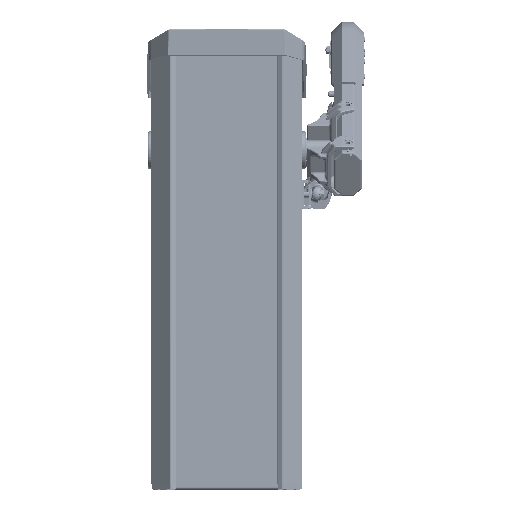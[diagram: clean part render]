
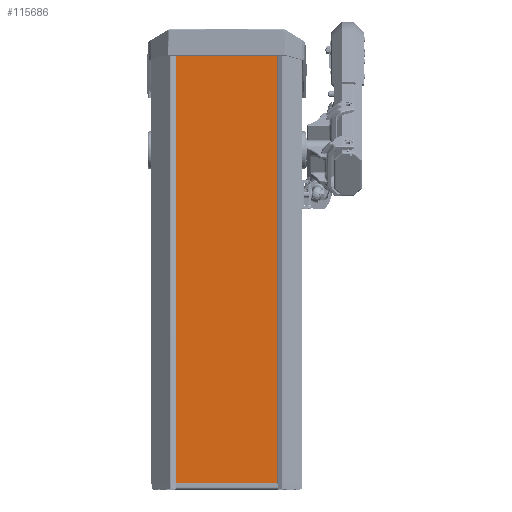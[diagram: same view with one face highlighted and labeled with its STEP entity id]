
A CAD part, front view. The second image highlights one B-rep face of the part: STEP entity #115686.
In plain terms, the highlighted planar face has unit normal (0, -1, 0) as drawn and (0, 1, 0) by its records, which use the part's own axes.
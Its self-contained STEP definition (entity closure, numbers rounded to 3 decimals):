
#10537=CIRCLE('',#132160,5.25);
#10538=CIRCLE('',#132161,5.25);
#25912=ORIENTED_EDGE('',*,*,#54743,.T.);
#25913=ORIENTED_EDGE('',*,*,#54744,.T.);
#25914=ORIENTED_EDGE('',*,*,#54731,.F.);
#25915=ORIENTED_EDGE('',*,*,#54745,.T.);
#25916=ORIENTED_EDGE('',*,*,#54725,.F.);
#25917=ORIENTED_EDGE('',*,*,#54746,.T.);
#25918=ORIENTED_EDGE('',*,*,#54721,.F.);
#25919=ORIENTED_EDGE('',*,*,#54747,.T.);
#25920=ORIENTED_EDGE('',*,*,#54735,.F.);
#25921=ORIENTED_EDGE('',*,*,#54748,.T.);
#54721=EDGE_CURVE('',#69857,#69858,#79274,.T.);
#54725=EDGE_CURVE('',#69861,#69862,#79278,.T.);
#54731=EDGE_CURVE('',#69867,#69868,#79284,.T.);
#54735=EDGE_CURVE('',#69871,#69872,#79288,.T.);
#54743=EDGE_CURVE('',#69875,#69875,#10537,.T.);
#54744=EDGE_CURVE('',#69876,#69876,#10538,.T.);
#54745=EDGE_CURVE('',#69867,#69862,#79294,.F.);
#54746=EDGE_CURVE('',#69861,#69858,#79295,.F.);
#54747=EDGE_CURVE('',#69857,#69872,#79296,.F.);
#54748=EDGE_CURVE('',#69871,#69868,#79297,.F.);
#69857=VERTEX_POINT('',#248884);
#69858=VERTEX_POINT('',#248885);
#69861=VERTEX_POINT('',#248893);
#69862=VERTEX_POINT('',#248894);
#69867=VERTEX_POINT('',#248905);
#69868=VERTEX_POINT('',#248907);
#69871=VERTEX_POINT('',#248914);
#69872=VERTEX_POINT('',#248916);
#69875=VERTEX_POINT('',#248929);
#69876=VERTEX_POINT('',#248931);
#79274=LINE('',#248883,#88064);
#79278=LINE('',#248892,#88068);
#79284=LINE('',#248906,#88074);
#79288=LINE('',#248915,#88078);
#79294=LINE('',#248932,#88084);
#79295=LINE('',#248933,#88085);
#79296=LINE('',#248934,#88086);
#79297=LINE('',#248935,#88087);
#88064=VECTOR('',#150264,1000.);
#88068=VECTOR('',#150270,1000.);
#88074=VECTOR('',#150278,1000.);
#88078=VECTOR('',#150284,1000.);
#88084=VECTOR('',#150302,1000.);
#88085=VECTOR('',#150303,1000.);
#88086=VECTOR('',#150304,1000.);
#88087=VECTOR('',#150305,1000.);
#97619=EDGE_LOOP('',(#25912));
#97620=EDGE_LOOP('',(#25913));
#97621=EDGE_LOOP('',(#25914,#25915,#25916,#25917,#25918,#25919,#25920,#25921));
#105507=FACE_BOUND('',#97619,.T.);
#105508=FACE_BOUND('',#97620,.T.);
#105509=FACE_BOUND('',#97621,.T.);
#111122=PLANE('',#132159);
#115686=ADVANCED_FACE('',(#105507,#105508,#105509),#111122,.F.);
#132159=AXIS2_PLACEMENT_3D('',#248927,#150296,#150297);
#132160=AXIS2_PLACEMENT_3D('',#248928,#150298,#150299);
#132161=AXIS2_PLACEMENT_3D('',#248930,#150300,#150301);
#150264=DIRECTION('',(0.,0.,-1.));
#150270=DIRECTION('',(1.,0.,0.));
#150278=DIRECTION('',(0.,0.,1.));
#150284=DIRECTION('',(-1.,0.,0.));
#150296=DIRECTION('',(0.,-1.,0.));
#150297=DIRECTION('',(0.,0.,-1.));
#150298=DIRECTION('',(0.,-1.,0.));
#150299=DIRECTION('',(0.,0.,-1.));
#150300=DIRECTION('',(0.,-1.,0.));
#150301=DIRECTION('',(0.,0.,-1.));
#150302=DIRECTION('',(0.707,0.,0.707));
#150303=DIRECTION('',(0.707,0.,-0.707));
#150304=DIRECTION('',(-0.707,0.,-0.707));
#150305=DIRECTION('',(-0.707,0.,0.707));
#248883=CARTESIAN_POINT('',(-108.3,0.,862.));
#248884=CARTESIAN_POINT('',(-108.3,0.,860.));
#248885=CARTESIAN_POINT('',(-108.3,0.,2.));
#248892=CARTESIAN_POINT('',(-108.3,0.,0.));
#248893=CARTESIAN_POINT('',(-106.3,0.,0.));
#248894=CARTESIAN_POINT('',(106.3,0.,0.));
#248905=CARTESIAN_POINT('',(108.3,0.,2.));
#248906=CARTESIAN_POINT('',(108.3,0.,0.));
#248907=CARTESIAN_POINT('',(108.3,0.,860.));
#248914=CARTESIAN_POINT('',(106.3,0.,862.));
#248915=CARTESIAN_POINT('',(108.3,0.,862.));
#248916=CARTESIAN_POINT('',(-106.3,0.,862.));
#248927=CARTESIAN_POINT('',(-108.3,0.,0.));
#248928=CARTESIAN_POINT('',(-85.,0.,7.));
#248929=CARTESIAN_POINT('',(-85.,0.,1.75));
#248930=CARTESIAN_POINT('',(85.,0.,7.));
#248931=CARTESIAN_POINT('',(85.,0.,1.75));
#248932=CARTESIAN_POINT('',(108.3,0.,2.));
#248933=CARTESIAN_POINT('',(-106.3,0.,0.));
#248934=CARTESIAN_POINT('',(-108.3,0.,860.));
#248935=CARTESIAN_POINT('',(106.3,0.,862.));
